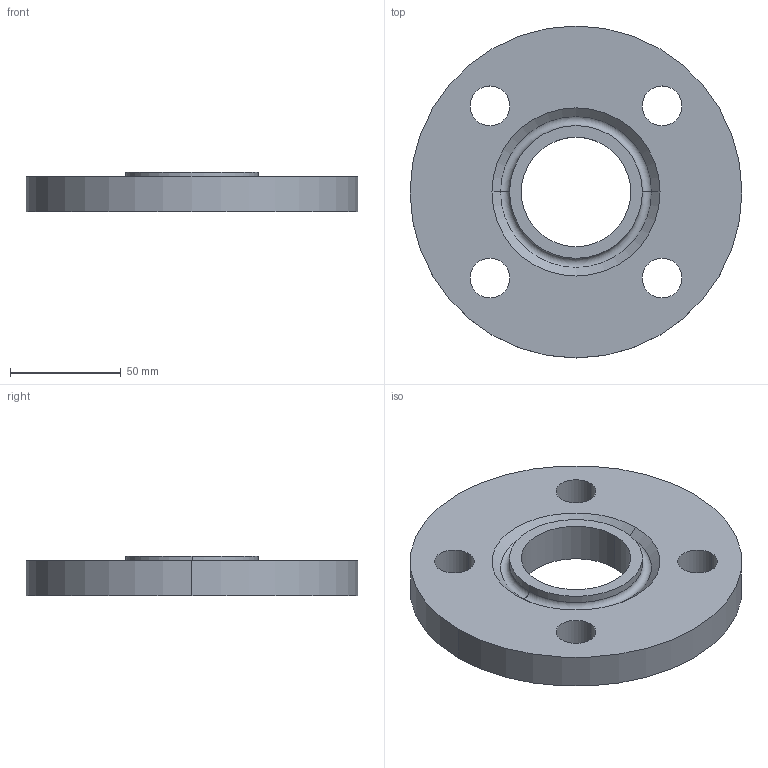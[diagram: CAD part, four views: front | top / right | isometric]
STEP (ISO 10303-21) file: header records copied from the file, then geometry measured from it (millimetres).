
FILE_DESCRIPTION (( 'STEP AP214' ), '1' );
FILE_NAME ('PN40 DN40 Type 01 - Type H Face.STEP', '2018-12-30T02:31:49', ( '' ), ( '' ), 'SwSTEP 2.0', 'SolidWorks 2019', '' );
FILE_SCHEMA (( 'AUTOMOTIVE_DESIGN' ));
Length unit declared in the file: millimetre
Products named in the file (1): PN40 DN40 Type 01 - Type H Face
Bounding box: 150 x 150 x 18 mm (x, y, z)
Volume: 233005.4 mm3; surface area: 44668.5 mm2
Topology: 1 solids, 1 shells, 21 faces, 50 edges, 32 vertices
Faces by surface type: cylinder 14, plane 3, torus 2, cone 2
Entity records: 680 total; most frequent: DIRECTION 128, CARTESIAN_POINT 104, ORIENTED_EDGE 100, AXIS2_PLACEMENT_3D 56, EDGE_CURVE 50, CIRCLE 34, VERTEX_POINT 32, EDGE_LOOP 32
